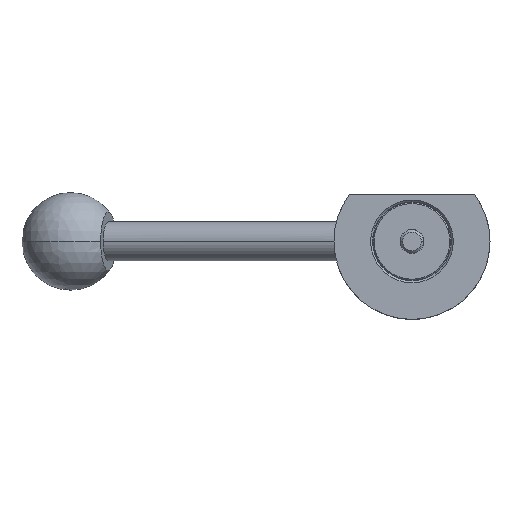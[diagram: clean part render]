
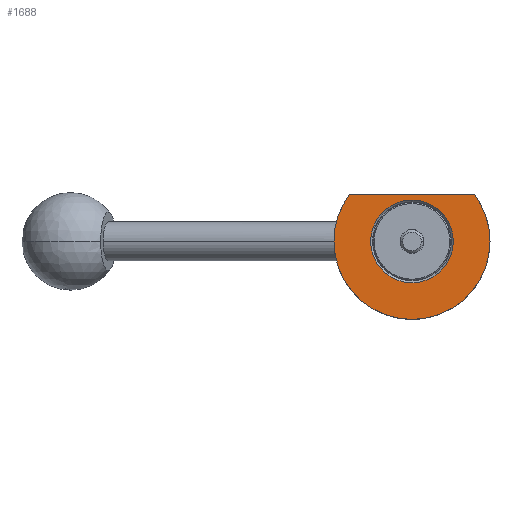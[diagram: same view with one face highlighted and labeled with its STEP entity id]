
A CAD part, front view. The second image highlights one B-rep face of the part: STEP entity #1688.
In plain terms, the highlighted planar face has unit normal (0, -1, 0).
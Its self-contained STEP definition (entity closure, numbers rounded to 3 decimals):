
#11 = AXIS2_PLACEMENT_3D ( 'NONE', #102, #1470, #1202 ) ;
#23 = FACE_OUTER_BOUND ( 'NONE', #214, .T. ) ;
#39 = CIRCLE ( 'NONE', #11, 10.6 ) ;
#64 = ORIENTED_EDGE ( 'NONE', *, *, #1930, .T. ) ;
#102 = CARTESIAN_POINT ( 'NONE',  ( 0., -10., 0. ) ) ;
#170 = CIRCLE ( 'NONE', #563, 20. ) ;
#214 = EDGE_LOOP ( 'NONE', ( #1567, #1831, #1983, #1916 ) ) ;
#253 = VERTEX_POINT ( 'NONE', #286 ) ;
#283 = CARTESIAN_POINT ( 'NONE',  ( 10.6, -10., 0. ) ) ;
#286 = CARTESIAN_POINT ( 'NONE',  ( -10.6, -10., 0. ) ) ;
#300 = CARTESIAN_POINT ( 'NONE',  ( -16.001, -10., 11.999 ) ) ;
#471 = DIRECTION ( 'NONE',  ( 0., 1., 0. ) ) ;
#479 = DIRECTION ( 'NONE',  ( -1., 0., 0. ) ) ;
#506 = FACE_BOUND ( 'NONE', #1760, .T. ) ;
#527 = AXIS2_PLACEMENT_3D ( 'NONE', #638, #1877, #479 ) ;
#533 = PLANE ( 'NONE',  #977 ) ;
#563 = AXIS2_PLACEMENT_3D ( 'NONE', #1426, #1903, #1732 ) ;
#576 = DIRECTION ( 'NONE',  ( -1., 0., 0. ) ) ;
#600 = DIRECTION ( 'NONE',  ( -1., 0., 0. ) ) ;
#636 = EDGE_CURVE ( 'NONE', #1238, #1336, #1973, .T. ) ;
#638 = CARTESIAN_POINT ( 'NONE',  ( 0., -10., 0. ) ) ;
#646 = VERTEX_POINT ( 'NONE', #283 ) ;
#760 = CARTESIAN_POINT ( 'NONE',  ( 0., -10., 0. ) ) ;
#781 = EDGE_CURVE ( 'NONE', #1336, #1582, #170, .T. ) ;
#833 = CARTESIAN_POINT ( 'NONE',  ( 20., -10., 0. ) ) ;
#836 = CARTESIAN_POINT ( 'NONE',  ( -10.6, -10., 0. ) ) ;
#867 = DIRECTION ( 'NONE',  ( 0., 1., 0. ) ) ;
#882 = CARTESIAN_POINT ( 'NONE',  ( -10.6, -10., 11.999 ) ) ;
#909 = VECTOR ( 'NONE', #576, 1000. ) ;
#977 = AXIS2_PLACEMENT_3D ( 'NONE', #836, #1122, #1910 ) ;
#1016 = LINE ( 'NONE', #882, #909 ) ;
#1028 = CARTESIAN_POINT ( 'NONE',  ( 16.001, -10., 11.999 ) ) ;
#1122 = DIRECTION ( 'NONE',  ( 0., -1., 0. ) ) ;
#1132 = EDGE_CURVE ( 'NONE', #1881, #1238, #1307, .T. ) ;
#1143 = CIRCLE ( 'NONE', #1508, 10.6 ) ;
#1202 = DIRECTION ( 'NONE',  ( -1., 0., 0. ) ) ;
#1235 = DIRECTION ( 'NONE',  ( -1., 0., 0. ) ) ;
#1238 = VERTEX_POINT ( 'NONE', #833 ) ;
#1273 = EDGE_CURVE ( 'NONE', #1881, #1582, #1016, .T. ) ;
#1307 = CIRCLE ( 'NONE', #527, 20. ) ;
#1322 = CARTESIAN_POINT ( 'NONE',  ( -20., -10., 0. ) ) ;
#1336 = VERTEX_POINT ( 'NONE', #1322 ) ;
#1426 = CARTESIAN_POINT ( 'NONE',  ( 0., -10., 0. ) ) ;
#1465 = ORIENTED_EDGE ( 'NONE', *, *, #1605, .T. ) ;
#1470 = DIRECTION ( 'NONE',  ( 0., 1., 0. ) ) ;
#1508 = AXIS2_PLACEMENT_3D ( 'NONE', #1848, #471, #1235 ) ;
#1567 = ORIENTED_EDGE ( 'NONE', *, *, #1132, .F. ) ;
#1582 = VERTEX_POINT ( 'NONE', #300 ) ;
#1605 = EDGE_CURVE ( 'NONE', #253, #646, #1143, .T. ) ;
#1688 = ADVANCED_FACE ( 'NONE', ( #506, #23 ), #533, .T. ) ;
#1732 = DIRECTION ( 'NONE',  ( -1., 0., 0. ) ) ;
#1760 = EDGE_LOOP ( 'NONE', ( #64, #1465 ) ) ;
#1801 = AXIS2_PLACEMENT_3D ( 'NONE', #760, #867, #600 ) ;
#1831 = ORIENTED_EDGE ( 'NONE', *, *, #1273, .T. ) ;
#1848 = CARTESIAN_POINT ( 'NONE',  ( 0., -10., 0. ) ) ;
#1877 = DIRECTION ( 'NONE',  ( 0., 1., 0. ) ) ;
#1881 = VERTEX_POINT ( 'NONE', #1028 ) ;
#1903 = DIRECTION ( 'NONE',  ( 0., 1., 0. ) ) ;
#1910 = DIRECTION ( 'NONE',  ( 1., 0., 0. ) ) ;
#1916 = ORIENTED_EDGE ( 'NONE', *, *, #636, .F. ) ;
#1930 = EDGE_CURVE ( 'NONE', #646, #253, #39, .T. ) ;
#1973 = CIRCLE ( 'NONE', #1801, 20. ) ;
#1983 = ORIENTED_EDGE ( 'NONE', *, *, #781, .F. ) ;
